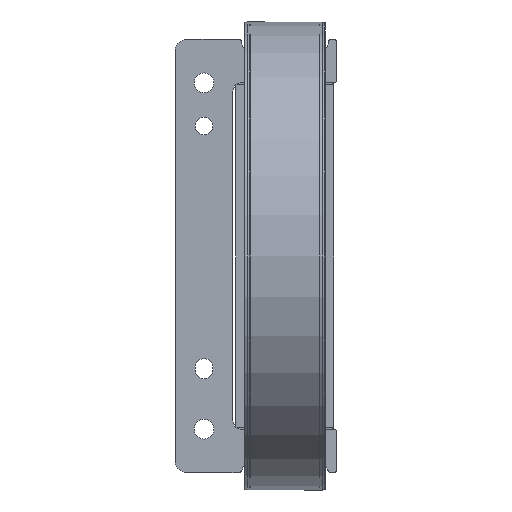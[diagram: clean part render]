
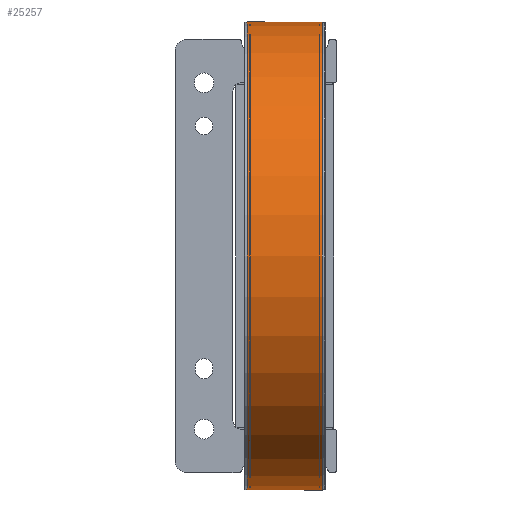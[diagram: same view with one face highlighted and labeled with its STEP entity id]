
A CAD part, front view. The second image highlights one B-rep face of the part: STEP entity #25257.
In plain terms, the highlighted cylindrical face has radius 40.526 mm (diameter 81.052 mm), a partial arc.
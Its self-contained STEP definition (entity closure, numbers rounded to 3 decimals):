
#81 = CARTESIAN_POINT ( 'NONE',  ( 25.5, -40.94, 40.526 ) ) ;
#2126 = CARTESIAN_POINT ( 'NONE',  ( 12., -40.94, 0. ) ) ;
#3870 = AXIS2_PLACEMENT_3D ( 'NONE', #19133, #50646, #42023 ) ;
#4392 = VECTOR ( 'NONE', #17643, 1000. ) ;
#5580 = ORIENTED_EDGE ( 'NONE', *, *, #30788, .T. ) ;
#5830 = EDGE_CURVE ( 'NONE', #52110, #33408, #48069, .T. ) ;
#6979 = EDGE_CURVE ( 'NONE', #34336, #9473, #55221, .T. ) ;
#7308 = AXIS2_PLACEMENT_3D ( 'NONE', #2126, #56914, #20291 ) ;
#9473 = VERTEX_POINT ( 'NONE', #81 ) ;
#9611 = ORIENTED_EDGE ( 'NONE', *, *, #5830, .F. ) ;
#12305 = LINE ( 'NONE', #30462, #12829 ) ;
#12829 = VECTOR ( 'NONE', #48603, 1000. ) ;
#15118 = EDGE_LOOP ( 'NONE', ( #23649, #5580, #9611, #20516 ) ) ;
#17643 = DIRECTION ( 'NONE',  ( -1., 0., 0. ) ) ;
#17644 = CARTESIAN_POINT ( 'NONE',  ( 12.5, -40.94, -40.526 ) ) ;
#19133 = CARTESIAN_POINT ( 'NONE',  ( 25.5, -40.94, 0. ) ) ;
#20291 = DIRECTION ( 'NONE',  ( 0., 0., -1. ) ) ;
#20516 = ORIENTED_EDGE ( 'NONE', *, *, #50241, .F. ) ;
#22727 = CARTESIAN_POINT ( 'NONE',  ( 12.5, -40.94, 0. ) ) ;
#23649 = ORIENTED_EDGE ( 'NONE', *, *, #6979, .T. ) ;
#25257 = ADVANCED_FACE ( 'NONE', ( #42897 ), #34550, .T. ) ;
#26306 = CARTESIAN_POINT ( 'NONE',  ( 12., -40.94, -40.526 ) ) ;
#26884 = DIRECTION ( 'NONE',  ( 0., 0., -1. ) ) ;
#30462 = CARTESIAN_POINT ( 'NONE',  ( 12., -40.94, 40.526 ) ) ;
#30788 = EDGE_CURVE ( 'NONE', #9473, #33408, #12305, .T. ) ;
#33408 = VERTEX_POINT ( 'NONE', #58613 ) ;
#34336 = VERTEX_POINT ( 'NONE', #50246 ) ;
#34550 = CYLINDRICAL_SURFACE ( 'NONE', #7308, 40.526 ) ;
#42023 = DIRECTION ( 'NONE',  ( 0., 0., -1. ) ) ;
#42897 = FACE_OUTER_BOUND ( 'NONE', #15118, .T. ) ;
#45001 = DIRECTION ( 'NONE',  ( -1., 0., 0. ) ) ;
#45318 = LINE ( 'NONE', #26306, #4392 ) ;
#48069 = CIRCLE ( 'NONE', #55700, 40.526 ) ;
#48603 = DIRECTION ( 'NONE',  ( -1., 0., 0. ) ) ;
#50241 = EDGE_CURVE ( 'NONE', #34336, #52110, #45318, .T. ) ;
#50246 = CARTESIAN_POINT ( 'NONE',  ( 25.5, -40.94, -40.526 ) ) ;
#50646 = DIRECTION ( 'NONE',  ( -1., 0., 0. ) ) ;
#52110 = VERTEX_POINT ( 'NONE', #17644 ) ;
#55221 = CIRCLE ( 'NONE', #3870, 40.526 ) ;
#55700 = AXIS2_PLACEMENT_3D ( 'NONE', #22727, #45001, #26884 ) ;
#56914 = DIRECTION ( 'NONE',  ( -1., 0., 0. ) ) ;
#58613 = CARTESIAN_POINT ( 'NONE',  ( 12.5, -40.94, 40.526 ) ) ;
